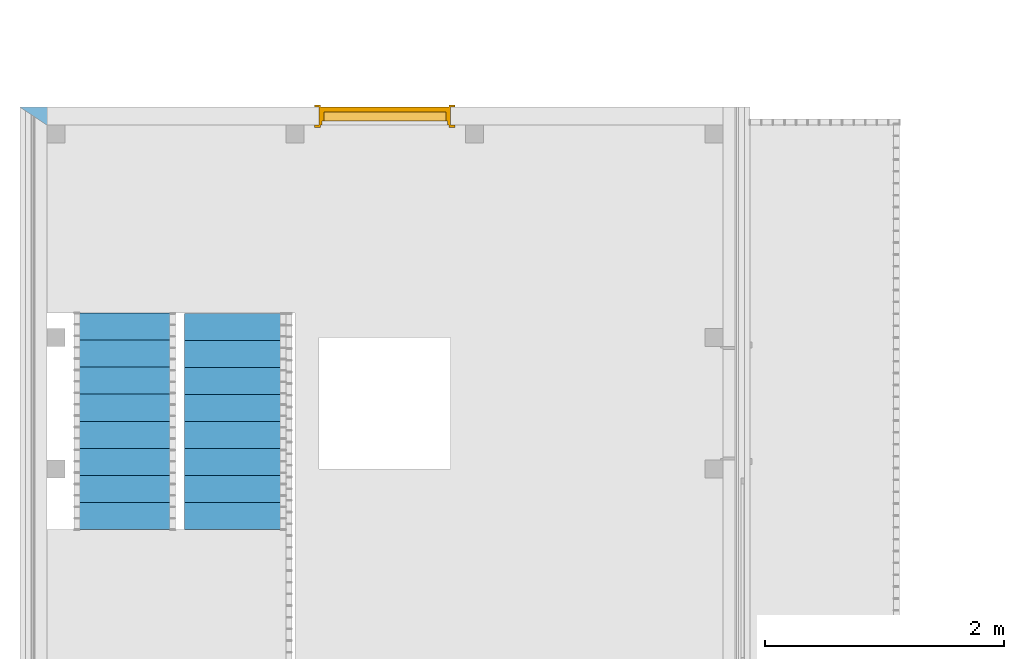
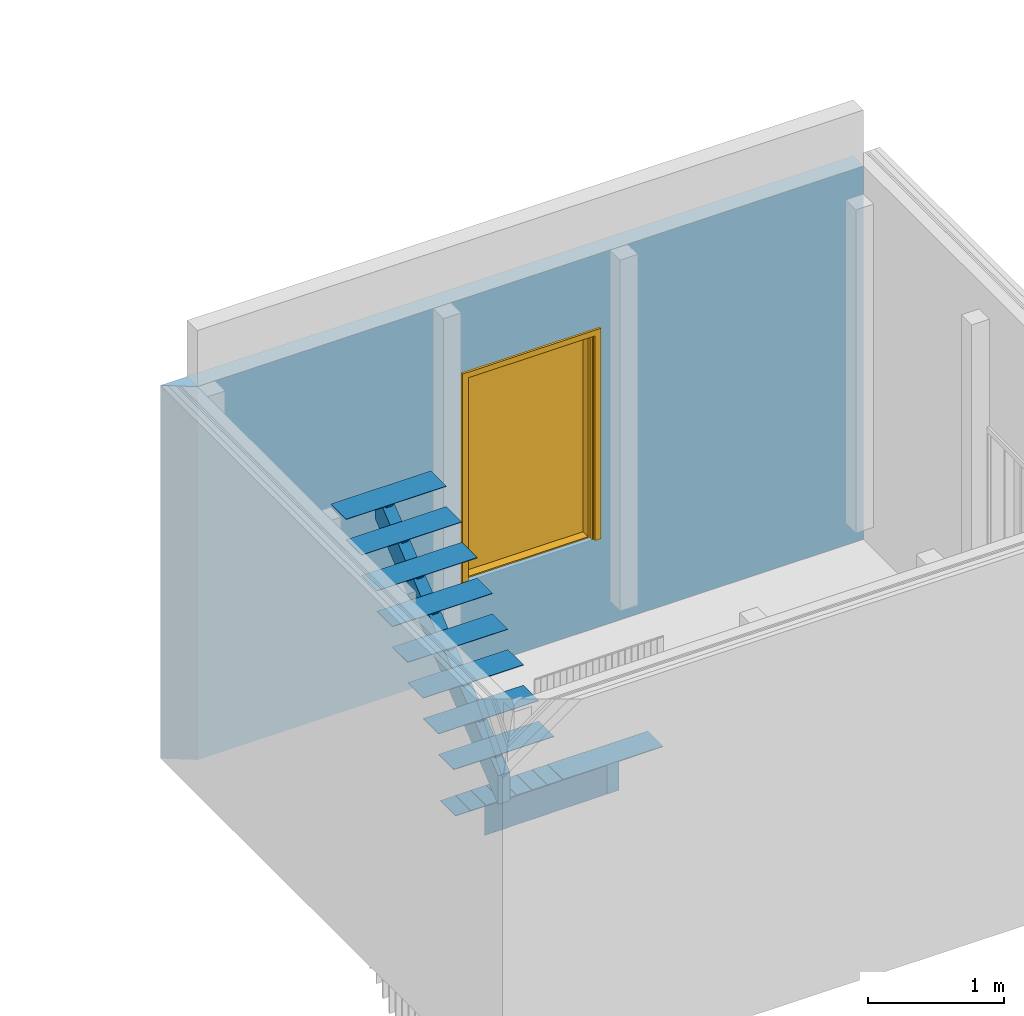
# One storey, part 51 of 100: 2 members, 1 door, 1 opening, 2 elements without a shape of their own, plus 1 element that does not belong to this part.
"""IFC2X3 building model written with IfcOpenShell, lengths in millimetres."""

from ifc_helpers import new_model, entity, si_unit, converted_unit, derived_unit, money_unit, direction, frame, origin_with_axes, origin_2d_with_axis, place, context, subcontext, project, spatial, polyline, rectangle, outline, extrude, faceted_brep, material, layer, layer_set, layer_usage, type_object, element, fill, aggregate, save


model = new_model("IFC2X3")

# Units and contexts
model_context = context("Model", 3, precision=0.01, world=origin_with_axes(), true_north=direction((0.0, 1.0)))
body_context = subcontext(model_context, "Body", "Model", "MODEL_VIEW")
ifc_project = project(units=[si_unit("LENGTHUNIT", "METRE", prefix="MILLI"), si_unit("AREAUNIT", "SQUARE_METRE"), si_unit("VOLUMEUNIT", "CUBIC_METRE"), converted_unit("PLANEANGLEUNIT", "DEGREE", entity("IfcPlaneAngleMeasure", 0.0174532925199), si_unit("PLANEANGLEUNIT", "RADIAN"), dimensions=[0, 0, 0, 0, 0, 0, 0]), si_unit("SOLIDANGLEUNIT", "STERADIAN"), money_unit("EUR"), converted_unit("TIMEUNIT", "Year", entity("IfcTimeMeasure", 31556926.0), si_unit("TIMEUNIT", "SECOND"), dimensions=[0, 0, 1, 0, 0, 0, 0]), si_unit("MASSUNIT", "GRAM", prefix="KILO"), si_unit("THERMODYNAMICTEMPERATUREUNIT", "DEGREE_CELSIUS"), si_unit("LUMINOUSINTENSITYUNIT", "LUMEN"), si_unit("ENERGYUNIT", "JOULE", prefix="MEGA"), derived_unit("THERMALCONDUCTANCEUNIT", [(si_unit("POWERUNIT", "WATT"), 1), (si_unit("LENGTHUNIT", "METRE"), -1), (si_unit("THERMODYNAMICTEMPERATUREUNIT", "KELVIN"), -1)]), derived_unit("SPECIFICHEATCAPACITYUNIT", [(si_unit("ENERGYUNIT", "JOULE"), 1), (si_unit("MASSUNIT", "GRAM", prefix="KILO"), -1), (si_unit("THERMODYNAMICTEMPERATUREUNIT", "KELVIN"), -1)]), derived_unit("MASSDENSITYUNIT", [(si_unit("MASSUNIT", "GRAM", prefix="KILO"), 1), (si_unit("VOLUMEUNIT", "CUBIC_METRE"), -1)])], contexts=[model_context])

# Site, building, storey
site_placement = place(None, origin_with_axes())
site = spatial("IfcSite", under=ifc_project, at=site_placement, Name="Politse- ja Piirivalveameti ning Päästeameti ühishoone", CompositionType="ELEMENT")
building_placement = place(site_placement, origin_with_axes())
building = spatial("IfcBuilding", under=site, at=building_placement, Name="Politse- ja Piirivalveameti ning Päästeameti ühishoone", CompositionType="ELEMENT")
storey_placement = place(building_placement, frame((0.0, 0.0, 3800.0), z_axis=(0.0, 0.0, 1.0), x_axis=(1.0, 0.0, 0.0)))
storey = spatial("IfcBuildingStorey", under=building, at=storey_placement, Name="Teine korrus", CompositionType="ELEMENT", Elevation=3800.0)

# Stair, member
stair_1_placement = place(storey_placement, frame((-13031.6987719, 2194.33466047, -499.999948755), z_axis=(0.0, 0.0, 1.0), x_axis=(0.0, -1.0, 0.0)))
stair_1 = element("IfcStair", 1, at=stair_1_placement, inside=storey, Name="TREPP 2", ShapeType="NOTDEFINED")
ifc_material_1 = material(Name="ET-06_Teras - Konstruktsioon")
member_type = type_object("IfcMemberType", Name="IfcMember", PredefinedType="USERDEFINED")
member_1_placement = place(stair_1_placement, origin_with_axes())
member_1 = element("IfcMember", 2, at=member_1_placement, type_object=member_type, material=ifc_material_1, Name="TT KONSTRUKTSIOON - 002", ObjectType="Stair Structure", context=body_context, shape_type="Brep", body=[
    faceted_brep([(-806.322199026, 375.0, -257.677132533), (999.104984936, 375.0, 1208.98953352), (999.104984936, 375.0, 1466.66666667), (-806.322199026, 375.0, 0.0), (-806.322199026, 475.0, -257.677132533), (999.104984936, 475.0, 1208.98953352), (999.104984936, 475.0, 1466.66666667), (-806.322199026, 475.0, 0.0)], [[[0, 1, 2, 3]], [[4, 5, 1, 0]], [[5, 6, 2, 1]], [[3, 2, 6, 7]], [[0, 3, 7, 4]], [[7, 6, 5, 4]]]),
    faceted_brep([(-592.953535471, 400.0, 173.333333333), (-580.643804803, 400.0, 183.333333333), (-780.643801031, 400.0, 183.333333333), (-701.130257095, 400.0, 85.4543012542), (-693.368606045, 400.0, 91.7595984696), (-759.636289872, 400.0, 173.333333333), (-580.643804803, 450.0, 183.333333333), (-592.953535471, 450.0, 173.333333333), (-780.643801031, 450.0, 183.333333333), (-701.130257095, 450.0, 85.4543012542), (-693.368606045, 450.0, 91.7595984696), (-759.636289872, 450.0, 173.333333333)], [[[0, 1, 2, 3, 4, 5]], [[6, 1, 0, 7]], [[1, 6, 8, 2]], [[9, 3, 2, 8]], [[10, 4, 3, 9]], [[4, 10, 11, 5]], [[7, 0, 5, 11]], [[6, 7, 11, 10, 9, 8]]]),
    faceted_brep([(-367.275139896, 400.0, 356.666666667), (-354.965409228, 400.0, 366.666666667), (-554.965403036, 400.0, 366.666666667), (-475.451860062, 400.0, 268.787635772), (-467.690209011, 400.0, 275.092932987), (-533.957891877, 400.0, 356.666666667), (-354.965409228, 450.0, 366.666666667), (-367.275139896, 450.0, 356.666666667), (-554.965403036, 450.0, 366.666666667), (-475.451860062, 450.0, 268.787635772), (-467.690209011, 450.0, 275.092932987), (-533.957891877, 450.0, 356.666666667)], [[[0, 1, 2, 3, 4, 5]], [[6, 1, 0, 7]], [[1, 6, 8, 2]], [[9, 3, 2, 8]], [[10, 4, 3, 9]], [[4, 10, 11, 5]], [[7, 0, 5, 11]], [[6, 7, 11, 10, 9, 8]]]),
    faceted_brep([(-141.596744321, 400.0, 540.0), (-129.287013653, 400.0, 550.0), (-329.287005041, 400.0, 550.0), (-249.773463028, 400.0, 452.12097029), (-242.011811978, 400.0, 458.426267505), (-308.279493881, 400.0, 540.0), (-129.287013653, 450.0, 550.0), (-141.596744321, 450.0, 540.0), (-329.287005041, 450.0, 550.0), (-249.773463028, 450.0, 452.12097029), (-242.011811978, 450.0, 458.426267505), (-308.279493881, 450.0, 540.0)], [[[0, 1, 2, 3, 4, 5]], [[6, 1, 0, 7]], [[1, 6, 8, 2]], [[9, 3, 2, 8]], [[10, 4, 3, 9]], [[4, 10, 11, 5]], [[7, 0, 5, 11]], [[6, 7, 11, 10, 9, 8]]]),
    faceted_brep([(84.0816512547, 400.0, 723.333333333), (96.3913819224, 400.0, 733.333333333), (-103.608607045, 400.0, 733.333333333), (-24.0950659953, 400.0, 635.454304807), (-16.3334149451, 400.0, 641.759602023), (-82.6010958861, 400.0, 723.333333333), (96.3913819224, 450.0, 733.333333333), (84.0816512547, 450.0, 723.333333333), (-103.608607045, 450.0, 733.333333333), (-24.0950659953, 450.0, 635.454304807), (-16.3334149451, 450.0, 641.759602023), (-82.6010958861, 450.0, 723.333333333)], [[[0, 1, 2, 3, 4, 5]], [[6, 1, 0, 7]], [[1, 6, 8, 2]], [[9, 3, 2, 8]], [[10, 4, 3, 9]], [[4, 10, 11, 5]], [[7, 0, 5, 11]], [[6, 7, 11, 10, 9, 8]]]),
    faceted_brep([(309.76004683, 400.0, 906.666666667), (322.069777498, 400.0, 916.666666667), (122.06979095, 400.0, 916.666666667), (201.583331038, 400.0, 818.787639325), (209.344982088, 400.0, 825.09293654), (143.077302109, 400.0, 906.666666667), (322.069777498, 450.0, 916.666666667), (309.76004683, 450.0, 906.666666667), (122.06979095, 450.0, 916.666666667), (201.583331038, 450.0, 818.787639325), (209.344982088, 450.0, 825.09293654), (143.077302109, 450.0, 906.666666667)], [[[0, 1, 2, 3, 4, 5]], [[6, 1, 0, 7]], [[1, 6, 8, 2]], [[9, 3, 2, 8]], [[10, 4, 3, 9]], [[4, 10, 11, 5]], [[7, 0, 5, 11]], [[6, 7, 11, 10, 9, 8]]]),
    faceted_brep([(535.438442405, 400.0, 1090.0), (547.748173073, 400.0, 1100.0), (347.748188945, 400.0, 1100.0), (427.261728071, 400.0, 1002.12097384), (435.023379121, 400.0, 1008.42627106), (368.755700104, 400.0, 1090.0), (547.748173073, 450.0, 1100.0), (535.438442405, 450.0, 1090.0), (347.748188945, 450.0, 1100.0), (427.261728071, 450.0, 1002.12097384), (435.023379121, 450.0, 1008.42627106), (368.755700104, 450.0, 1090.0)], [[[0, 1, 2, 3, 4, 5]], [[6, 1, 0, 7]], [[1, 6, 8, 2]], [[9, 3, 2, 8]], [[10, 4, 3, 9]], [[4, 10, 11, 5]], [[7, 0, 5, 11]], [[6, 7, 11, 10, 9, 8]]]),
    faceted_brep([(761.116837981, 400.0, 1273.33333333), (773.426568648, 400.0, 1283.33333333), (573.42658694, 400.0, 1283.33333333), (652.940125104, 400.0, 1185.45430836), (660.701776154, 400.0, 1191.75960558), (594.4340981, 400.0, 1273.33333333), (773.426568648, 450.0, 1283.33333333), (761.116837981, 450.0, 1273.33333333), (573.42658694, 450.0, 1283.33333333), (652.940125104, 450.0, 1185.45430836), (660.701776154, 450.0, 1191.75960558), (594.4340981, 450.0, 1273.33333333)], [[[0, 1, 2, 3, 4, 5]], [[6, 1, 0, 7]], [[1, 6, 8, 2]], [[9, 3, 2, 8]], [[10, 4, 3, 9]], [[4, 10, 11, 5]], [[7, 0, 5, 11]], [[6, 7, 11, 10, 9, 8]]]),
    faceted_brep([(986.795233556, 400.0, 1456.66666667), (999.104976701, 400.0, 1466.6666768), (799.104984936, 400.0, 1466.66666667), (878.618522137, 400.0, 1368.78764288), (886.380173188, 400.0, 1375.09294009), (820.112496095, 400.0, 1456.66666667), (999.104976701, 450.0, 1466.6666768), (986.795233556, 450.0, 1456.66666667), (799.104984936, 450.0, 1466.66666667), (878.618522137, 450.0, 1368.78764288), (886.380173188, 450.0, 1375.09294009), (820.112496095, 450.0, 1456.66666667)], [[[0, 1, 2, 3, 4, 5]], [[6, 1, 0, 7]], [[1, 6, 8, 2]], [[9, 3, 2, 8]], [[10, 4, 3, 9]], [[4, 10, 11, 5]], [[7, 0, 5, 11]], [[6, 7, 11, 10, 9, 8]]]),
    faceted_brep([(-806.322199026, 849.737149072, 183.333333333), (-806.322199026, 0.0, 183.333333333), (-806.322199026, 0.0, 188.333333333), (-806.322199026, 849.737149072, 188.333333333), (-580.643801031, 849.737149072, 183.333333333), (-580.643801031, 0.0, 183.333333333), (-580.643801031, 0.0, 188.333333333), (-580.643801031, 849.737149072, 188.333333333)], [[[0, 1, 2, 3]], [[0, 4, 5, 1]], [[1, 5, 6, 2]], [[3, 2, 6, 7]], [[4, 0, 3, 7]], [[5, 4, 7, 6]]]),
    faceted_brep([(-580.643801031, 849.737149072, 366.666666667), (-580.643801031, 0.0, 366.666666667), (-580.643801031, 0.0, 371.666666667), (-580.643801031, 849.737149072, 371.666666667), (-354.965403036, 849.737149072, 366.666666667), (-354.965403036, 0.0, 366.666666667), (-354.965403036, 0.0, 371.666666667), (-354.965403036, 849.737149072, 371.666666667)], [[[0, 1, 2, 3]], [[0, 4, 5, 1]], [[1, 5, 6, 2]], [[3, 2, 6, 7]], [[4, 0, 3, 7]], [[5, 4, 7, 6]]]),
    faceted_brep([(-354.965403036, 849.737149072, 550.0), (-354.965403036, 0.0, 550.0), (-354.965403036, 0.0, 555.0), (-354.965403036, 849.737149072, 555.0), (-129.287005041, 849.737149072, 550.0), (-129.287005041, 0.0, 550.0), (-129.287005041, 0.0, 555.0), (-129.287005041, 849.737149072, 555.0)], [[[0, 1, 2, 3]], [[0, 4, 5, 1]], [[1, 5, 6, 2]], [[3, 2, 6, 7]], [[4, 0, 3, 7]], [[5, 4, 7, 6]]]),
    faceted_brep([(-129.287005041, 849.737149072, 733.333333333), (-129.287005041, 0.0, 733.333333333), (-129.287005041, 0.0, 738.333333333), (-129.287005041, 849.737149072, 738.333333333), (96.3913929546, 849.737149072, 733.333333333), (96.3913929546, 0.0, 733.333333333), (96.3913929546, 0.0, 738.333333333), (96.3913929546, 849.737149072, 738.333333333)], [[[0, 1, 2, 3]], [[0, 4, 5, 1]], [[1, 5, 6, 2]], [[3, 2, 6, 7]], [[4, 0, 3, 7]], [[5, 4, 7, 6]]]),
    faceted_brep([(96.3913929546, 849.737149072, 916.666666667), (96.3913929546, 0.0, 916.666666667), (96.3913929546, 0.0, 921.666666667), (96.3913929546, 849.737149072, 921.666666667), (322.06979095, 849.737149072, 916.666666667), (322.06979095, 0.0, 916.666666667), (322.06979095, 0.0, 921.666666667), (322.06979095, 849.737149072, 921.666666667)], [[[0, 1, 2, 3]], [[0, 4, 5, 1]], [[1, 5, 6, 2]], [[3, 2, 6, 7]], [[4, 0, 3, 7]], [[5, 4, 7, 6]]]),
    faceted_brep([(322.06979095, 849.737149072, 1100.0), (322.06979095, 0.0, 1100.0), (322.06979095, 0.0, 1105.0), (322.06979095, 849.737149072, 1105.0), (547.748188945, 849.737149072, 1100.0), (547.748188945, 0.0, 1100.0), (547.748188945, 0.0, 1105.0), (547.748188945, 849.737149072, 1105.0)], [[[0, 1, 2, 3]], [[0, 4, 5, 1]], [[1, 5, 6, 2]], [[3, 2, 6, 7]], [[4, 0, 3, 7]], [[5, 4, 7, 6]]]),
    faceted_brep([(547.748188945, 849.737149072, 1283.33333333), (547.748188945, 0.0, 1283.33333333), (547.748188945, 0.0, 1288.33333333), (547.748188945, 849.737149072, 1288.33333333), (773.42658694, 849.737149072, 1283.33333333), (773.42658694, 0.0, 1283.33333333), (773.42658694, 0.0, 1288.33333333), (773.42658694, 849.737149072, 1288.33333333)], [[[0, 1, 2, 3]], [[0, 4, 5, 1]], [[1, 5, 6, 2]], [[3, 2, 6, 7]], [[4, 0, 3, 7]], [[5, 4, 7, 6]]]),
    faceted_brep([(773.42658694, 849.737149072, 1466.66666667), (773.42658694, 0.0, 1466.66666667), (773.42658694, 0.0, 1471.66666667), (773.42658694, 849.737149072, 1471.66666667), (999.104984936, 849.737149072, 1466.66666667), (999.104984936, 0.0, 1466.66666667), (999.104984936, 0.0, 1471.66666667), (999.104984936, 849.737149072, 1471.66666667)], [[[0, 1, 2, 3]], [[0, 4, 5, 1]], [[1, 5, 6, 2]], [[3, 2, 6, 7]], [[4, 0, 3, 7]], [[5, 4, 7, 6]]]),
])
aggregate(stair_1, [member_1])

stair_2_placement = place(storey_placement, frame((-13956.6987719, 2005.82219903, 1197.0), z_axis=(0.0, 0.0, 1.0), x_axis=(0.0, 1.0, 0.0)))
stair_2 = element("IfcStair", 3, at=stair_2_placement, inside=storey, Name="TREPP 2", ShapeType="NOTDEFINED")
member_2_placement = place(stair_2_placement, origin_with_axes())
member_2 = element("IfcMember", 4, at=member_2_placement, type_object=member_type, material=ifc_material_1, Name="TT KONSTRUKTSIOON - 002", ObjectType="Stair Structure", context=body_context, shape_type="Brep", body=[
    faceted_brep([(-810.592523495, -375.0, -257.435566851), (-810.592523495, -375.0, 0.0), (999.104984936, -375.0, 1466.66666667), (999.104984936, -375.0, 1209.23109793), (-810.592523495, -475.0, -257.435566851), (-810.592523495, -475.0, 0.0), (999.104984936, -475.0, 1466.66666667), (999.104984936, -475.0, 1209.23109793)], [[[0, 1, 2, 3]], [[0, 4, 5, 1]], [[1, 5, 6, 2]], [[7, 3, 2, 6]], [[4, 0, 3, 7]], [[5, 4, 7, 6]]]),
    faceted_brep([(-596.719192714, -400.0, 173.333333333), (-763.404071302, -400.0, 173.333333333), (-697.324081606, -400.0, 91.7982473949), (-705.093015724, -400.0, 85.5019260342), (-784.380334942, -400.0, 183.333333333), (-584.380346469, -400.0, 183.333333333), (-596.719192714, -450.0, 173.333333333), (-763.404071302, -450.0, 173.333333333), (-697.324081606, -450.0, 91.7982473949), (-705.093015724, -450.0, 85.5019260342), (-784.380334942, -450.0, 183.333333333), (-584.380346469, -450.0, 183.333333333)], [[[0, 1, 2, 3, 4, 5]], [[6, 7, 1, 0]], [[2, 1, 7, 8]], [[8, 9, 3, 2]], [[9, 10, 4, 3]], [[5, 4, 10, 11]], [[11, 6, 0, 5]], [[11, 10, 9, 8, 7, 6]]]),
    faceted_brep([(-370.507011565, -400.0, 356.666666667), (-537.191882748, -400.0, 356.666666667), (-471.111895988, -400.0, 275.131584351), (-478.880830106, -400.0, 268.83526299), (-558.168146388, -400.0, 366.666666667), (-358.168165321, -400.0, 366.666666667), (-370.507011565, -450.0, 356.666666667), (-537.191882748, -450.0, 356.666666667), (-471.111895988, -450.0, 275.131584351), (-478.880830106, -450.0, 268.83526299), (-558.168146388, -450.0, 366.666666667), (-358.168165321, -450.0, 366.666666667)], [[[0, 1, 2, 3, 4, 5]], [[6, 7, 1, 0]], [[2, 1, 7, 8]], [[8, 9, 3, 2]], [[9, 10, 4, 3]], [[5, 4, 10, 11]], [[11, 6, 0, 5]], [[11, 10, 9, 8, 7, 6]]]),
    faceted_brep([(-144.294830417, -400.0, 540.0), (-310.979694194, -400.0, 540.0), (-244.89971037, -400.0, 458.464921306), (-252.668644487, -400.0, 452.168599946), (-331.955957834, -400.0, 550.0), (-131.955984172, -400.0, 550.0), (-144.294830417, -450.0, 540.0), (-310.979694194, -450.0, 540.0), (-244.89971037, -450.0, 458.464921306), (-252.668644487, -450.0, 452.168599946), (-331.955957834, -450.0, 550.0), (-131.955984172, -450.0, 550.0)], [[[0, 1, 2, 3, 4, 5]], [[6, 7, 1, 0]], [[2, 1, 7, 8]], [[8, 9, 3, 2]], [[9, 10, 4, 3]], [[5, 4, 10, 11]], [[11, 6, 0, 5]], [[11, 10, 9, 8, 7, 6]]]),
    faceted_brep([(81.9173507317, -400.0, 723.333333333), (-84.7675056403, -400.0, 723.333333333), (-18.6875247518, -400.0, 641.798258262), (-26.4564588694, -400.0, 635.501936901), (-105.74376928, -400.0, 733.333333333), (94.2561969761, -400.0, 733.333333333), (81.9173507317, -450.0, 723.333333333), (-84.7675056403, -450.0, 723.333333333), (-18.6875247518, -450.0, 641.798258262), (-26.4564588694, -450.0, 635.501936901), (-105.74376928, -450.0, 733.333333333), (94.2561969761, -450.0, 733.333333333)], [[[0, 1, 2, 3, 4, 5]], [[6, 7, 1, 0]], [[2, 1, 7, 8]], [[8, 9, 3, 2]], [[9, 10, 4, 3]], [[5, 4, 10, 11]], [[11, 6, 0, 5]], [[11, 10, 9, 8, 7, 6]]]),
    faceted_brep([(308.12953188, -400.0, 906.666666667), (141.444682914, -400.0, 906.666666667), (207.524660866, -400.0, 825.131595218), (199.755726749, -400.0, 818.835273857), (120.468419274, -400.0, 916.666666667), (320.468378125, -400.0, 916.666666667), (308.12953188, -450.0, 906.666666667), (141.444682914, -450.0, 906.666666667), (207.524660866, -450.0, 825.131595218), (199.755726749, -450.0, 818.835273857), (120.468419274, -450.0, 916.666666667), (320.468378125, -450.0, 916.666666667)], [[[0, 1, 2, 3, 4, 5]], [[6, 7, 1, 0]], [[2, 1, 7, 8]], [[8, 9, 3, 2]], [[9, 10, 4, 3]], [[5, 4, 10, 11]], [[11, 6, 0, 5]], [[11, 10, 9, 8, 7, 6]]]),
    faceted_brep([(534.341713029, -400.0, 1090.0), (367.656871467, -400.0, 1090.0), (433.736846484, -400.0, 1008.46493217), (425.967912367, -400.0, 1002.16861081), (346.680607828, -400.0, 1100.0), (546.680559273, -400.0, 1100.0), (534.341713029, -450.0, 1090.0), (367.656871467, -450.0, 1090.0), (433.736846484, -450.0, 1008.46493217), (425.967912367, -450.0, 1002.16861081), (346.680607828, -450.0, 1100.0), (546.680559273, -450.0, 1100.0)], [[[0, 1, 2, 3, 4, 5]], [[6, 7, 1, 0]], [[2, 1, 7, 8]], [[8, 9, 3, 2]], [[9, 10, 4, 3]], [[5, 4, 10, 11]], [[11, 6, 0, 5]], [[11, 10, 9, 8, 7, 6]]]),
    faceted_brep([(760.553894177, -400.0, 1273.33333333), (593.869060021, -400.0, 1273.33333333), (659.949032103, -400.0, 1191.79826913), (652.180097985, -400.0, 1185.50194777), (572.892796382, -400.0, 1283.33333333), (772.892740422, -400.0, 1283.33333333), (760.553894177, -450.0, 1273.33333333), (593.869060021, -450.0, 1273.33333333), (659.949032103, -450.0, 1191.79826913), (652.180097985, -450.0, 1185.50194777), (572.892796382, -450.0, 1283.33333333), (772.892740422, -450.0, 1283.33333333)], [[[0, 1, 2, 3, 4, 5]], [[6, 7, 1, 0]], [[2, 1, 7, 8]], [[8, 9, 3, 2]], [[9, 10, 4, 3]], [[5, 4, 10, 11]], [[11, 6, 0, 5]], [[11, 10, 9, 8, 7, 6]]]),
    faceted_brep([(986.766075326, -400.0, 1456.66666667), (820.081248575, -400.0, 1456.66666667), (886.161217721, -400.0, 1375.13160609), (878.392283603, -400.0, 1368.83528472), (799.104984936, -400.0, 1466.66666667), (999.104959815, -400.0, 1466.66669766), (986.766075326, -450.0, 1456.66666667), (820.081248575, -450.0, 1456.66666667), (886.161217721, -450.0, 1375.13160609), (878.392283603, -450.0, 1368.83528472), (799.104984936, -450.0, 1466.66666667), (999.104959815, -450.0, 1466.66669766)], [[[0, 1, 2, 3, 4, 5]], [[6, 7, 1, 0]], [[2, 1, 7, 8]], [[8, 9, 3, 2]], [[9, 10, 4, 3]], [[5, 4, 10, 11]], [[11, 6, 0, 5]], [[11, 10, 9, 8, 7, 6]]]),
    faceted_brep([(-810.592523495, -849.859183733, 183.333333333), (-810.592523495, -849.859183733, 188.333333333), (-810.592523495, 0.0, 188.333333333), (-810.592523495, 0.0, 183.333333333), (-584.380334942, -849.859183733, 183.333333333), (-584.380334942, -849.859183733, 188.333333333), (-584.380334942, 0.0, 188.333333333), (-584.380334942, 0.0, 183.333333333)], [[[0, 1, 2, 3]], [[4, 5, 1, 0]], [[1, 5, 6, 2]], [[3, 2, 6, 7]], [[0, 3, 7, 4]], [[7, 6, 5, 4]]]),
    faceted_brep([(-584.380334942, -849.859183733, 366.666666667), (-584.380334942, -849.859183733, 371.666666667), (-584.380334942, 0.0, 371.666666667), (-584.380334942, 0.0, 366.666666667), (-358.168146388, -849.859183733, 366.666666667), (-358.168146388, -849.859183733, 371.666666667), (-358.168146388, 0.0, 371.666666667), (-358.168146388, 0.0, 366.666666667)], [[[0, 1, 2, 3]], [[4, 5, 1, 0]], [[1, 5, 6, 2]], [[3, 2, 6, 7]], [[0, 3, 7, 4]], [[7, 6, 5, 4]]]),
    faceted_brep([(-358.168146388, -849.859183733, 550.0), (-358.168146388, -849.859183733, 555.0), (-358.168146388, 0.0, 555.0), (-358.168146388, 0.0, 550.0), (-131.955957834, -849.859183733, 550.0), (-131.955957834, -849.859183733, 555.0), (-131.955957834, 0.0, 555.0), (-131.955957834, 0.0, 550.0)], [[[0, 1, 2, 3]], [[4, 5, 1, 0]], [[1, 5, 6, 2]], [[3, 2, 6, 7]], [[0, 3, 7, 4]], [[7, 6, 5, 4]]]),
    faceted_brep([(-131.955957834, -849.859183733, 733.333333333), (-131.955957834, -849.859183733, 738.333333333), (-131.955957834, 0.0, 738.333333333), (-131.955957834, 0.0, 733.333333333), (94.2562307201, -849.859183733, 733.333333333), (94.2562307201, -849.859183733, 738.333333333), (94.2562307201, 0.0, 738.333333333), (94.2562307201, 0.0, 733.333333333)], [[[0, 1, 2, 3]], [[4, 5, 1, 0]], [[1, 5, 6, 2]], [[3, 2, 6, 7]], [[0, 3, 7, 4]], [[7, 6, 5, 4]]]),
    faceted_brep([(94.2562307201, -849.859183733, 916.666666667), (94.2562307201, -849.859183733, 921.666666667), (94.2562307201, 0.0, 921.666666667), (94.2562307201, 0.0, 916.666666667), (320.468419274, -849.859183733, 916.666666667), (320.468419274, -849.859183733, 921.666666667), (320.468419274, 0.0, 921.666666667), (320.468419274, 0.0, 916.666666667)], [[[0, 1, 2, 3]], [[4, 5, 1, 0]], [[1, 5, 6, 2]], [[3, 2, 6, 7]], [[0, 3, 7, 4]], [[7, 6, 5, 4]]]),
    faceted_brep([(320.468419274, -849.859183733, 1100.0), (320.468419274, -849.859183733, 1105.0), (320.468419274, 0.0, 1105.0), (320.468419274, 0.0, 1100.0), (546.680607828, -849.859183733, 1100.0), (546.680607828, -849.859183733, 1105.0), (546.680607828, 0.0, 1105.0), (546.680607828, 0.0, 1100.0)], [[[0, 1, 2, 3]], [[4, 5, 1, 0]], [[1, 5, 6, 2]], [[3, 2, 6, 7]], [[0, 3, 7, 4]], [[7, 6, 5, 4]]]),
    faceted_brep([(546.680607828, -849.859183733, 1283.33333333), (546.680607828, -849.859183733, 1288.33333333), (546.680607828, 0.0, 1288.33333333), (546.680607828, 0.0, 1283.33333333), (772.892796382, -849.859183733, 1283.33333333), (772.892796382, -849.859183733, 1288.33333333), (772.892796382, 0.0, 1288.33333333), (772.892796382, 0.0, 1283.33333333)], [[[0, 1, 2, 3]], [[4, 5, 1, 0]], [[1, 5, 6, 2]], [[3, 2, 6, 7]], [[0, 3, 7, 4]], [[7, 6, 5, 4]]]),
    faceted_brep([(772.892796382, -849.859183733, 1466.66666667), (772.892796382, -849.859183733, 1471.66666667), (772.892796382, 0.0, 1471.66666667), (772.892796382, 0.0, 1466.66666667), (999.104984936, -849.859183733, 1466.66666667), (999.104984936, -849.859183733, 1471.66666667), (999.104984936, 0.0, 1471.66666667), (999.104984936, 0.0, 1466.66666667)], [[[0, 1, 2, 3]], [[4, 5, 1, 0]], [[1, 5, 6, 2]], [[3, 2, 6, 7]], [[0, 3, 7, 4]], [[7, 6, 5, 4]]]),
])
aggregate(stair_2, [member_2])

# Wall, opening, door
ifc_material_2 = material(Name="Betoon")
ifc_layer = layer(ifc_material_2, 150.0, ventilated="UNKNOWN")
ifc_layer_set = layer_set([ifc_layer], Name="VS-21_Välissein jarjutustorn 150mm")
ifc_layer_usage = layer_usage(ifc_layer_set, "AXIS2", "NEGATIVE", 150.0)
wall_type = type_object("IfcWallType", Name="VS-21_Välissein jarjutustorn 150mm 150", PredefinedType="NOTDEFINED")
wall_placement = place(storey_placement, frame((-14182.0, 4575.4616888, -499.999987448), z_axis=(0.0, 0.0, 1.0), x_axis=(1.0, 0.0, 0.0)))
wall = element("IfcWallStandardCase", 5, at=wall_placement, inside=storey, type_object=wall_type, material=ifc_layer_usage, Name="VS-21", context=body_context, shape_type="SweptSolid", body=[
    extrude(outline(polyline([(0.0, 0.0), (5650.0, 0.0), (5650.0, 150.0), (-225.0, 150.0), (0.0, 0.0)])), origin_with_axes(), (0.0, 0.0, 1.0), 3346.99998745),
])
opening_placement = place(wall_placement, frame((2824.96730436, 0.0, 799.999987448), z_axis=(0.0, 0.0, 1.0), x_axis=(1.0, 0.0, 0.0)))
opening = element("IfcOpeningElement", 6, at=opening_placement, cuts=wall, Name="LU-21", context=body_context, shape_type="SweptSolid", body=[
    extrude(rectangle(XDim=1100.0, YDim=1850.0, at=origin_2d_with_axis()), frame((0.0, -150.0, 925.0), z_axis=(0.0, -1.0, 0.0), x_axis=(-1.0, 0.0, 0.0)), (0.0, 0.0, -1.0), 450.0),
    extrude(rectangle(XDim=1174.0, YDim=1887.0, at=origin_2d_with_axis()), frame((0.0, 0.0, 943.5), z_axis=(0.0, -1.0, 0.0), x_axis=(-1.0, 0.0, 0.0)), (0.0, 0.0, 1.0), 150.0),
    extrude(rectangle(XDim=1174.0, YDim=1887.0, at=origin_2d_with_axis()), frame((0.0, 150.0, 943.5), z_axis=(0.0, 1.0, 0.0), x_axis=(-1.0, 0.0, 0.0)), (0.0, 0.0, 1.0), 150.0),
])
door_style = type_object("IfcDoorStyle", Name="Door 23", ConstructionType="NOTDEFINED", OperationType="SINGLE_SWING_LEFT", ParameterTakesPrecedence=False, Sizeable=False)
door_placement = place(opening_placement, frame((-550.0, 0.0, 0.0), z_axis=(0.0, 0.0, 1.0), x_axis=(1.0, 0.0, 0.0)))
door = element("IfcDoor", 7, at=door_placement, inside=storey, type_object=door_style, Name="LU-21", ObjectType="DOOR", OverallHeight=1850.0, OverallWidth=1100.0, context=body_context, shape_type="Brep", body=[
    faceted_brep([(28.0, 110.0, 0.0), (40.0, 110.0, 0.0), (40.0, 110.0, 12.0), (28.0, 110.0, 12.0), (1072.0, 110.0, 0.0), (1060.0, 110.0, 0.0), (1060.0, 35.0, 0.0), (40.0, 35.0, 0.0), (40.0, 35.0, 12.0), (1060.0, 35.0, 12.0), (1060.0, 110.0, 12.0), (1072.0, 110.0, 12.0)], [[[0, 1, 2, 3]], [[0, 4, 5, 6, 7, 1]], [[1, 7, 8, 2]], [[3, 2, 8, 9, 10, 11]], [[4, 0, 3, 11]], [[5, 4, 11, 10]], [[6, 5, 10, 9]], [[7, 6, 9, 8]]]),
    faceted_brep([(1100.0, 35.0, 0.0), (1100.0, 0.0, 0.0), (1075.0, 0.0, 0.0), (1075.0, 35.0, 0.0), (1100.0, 35.0, 1850.0), (1100.0, 0.0, 1850.0), (1075.0, 0.0, 1825.0), (1075.0, 35.0, 1825.0)], [[[0, 1, 2, 3]], [[4, 5, 1, 0]], [[1, 5, 6, 2]], [[3, 2, 6, 7]], [[0, 3, 7, 4]], [[7, 6, 5, 4]]]),
    faceted_brep([(0.0, 35.0, 1850.0), (0.0, 0.0, 1850.0), (25.0, 0.0, 1825.0), (25.0, 35.0, 1825.0), (0.0, 35.0, 0.0), (0.0, 0.0, 0.0), (25.0, 0.0, 0.0), (25.0, 35.0, 0.0)], [[[0, 1, 2, 3]], [[4, 5, 1, 0]], [[1, 5, 6, 2]], [[3, 2, 6, 7]], [[0, 3, 7, 4]], [[7, 6, 5, 4]]]),
    faceted_brep([(1075.0, 35.0, 1825.0), (1075.0, 0.0, 1825.0), (25.0, 0.0, 1825.0), (25.0, 35.0, 1825.0), (1100.0, 35.0, 1850.0), (1100.0, 0.0, 1850.0), (0.0, 0.0, 1850.0), (0.0, 35.0, 1850.0)], [[[0, 1, 2, 3]], [[4, 5, 1, 0]], [[1, 5, 6, 2]], [[3, 2, 6, 7]], [[0, 3, 7, 4]], [[7, 6, 5, 4]]]),
    faceted_brep([(1137.0, -19.0, 0.0), (1087.0, -19.0, 0.0), (1087.0, 0.0, 0.0), (1137.0, 0.0, 0.0), (1137.0, -19.0, 1887.0), (1087.0, -19.0, 1837.0), (1087.0, 0.0, 1837.0), (1137.0, 0.0, 1887.0)], [[[0, 1, 2, 3]], [[0, 4, 5, 1]], [[1, 5, 6, 2]], [[3, 2, 6, 7]], [[4, 0, 3, 7]], [[5, 4, 7, 6]]]),
    faceted_brep([(-37.0, -19.0, 1887.0), (13.0, -19.0, 1837.0), (13.0, 0.0, 1837.0), (-37.0, 0.0, 1887.0), (-37.0, -19.0, 0.0), (13.0, -19.0, 0.0), (13.0, 0.0, 0.0), (-37.0, 0.0, 0.0)], [[[0, 1, 2, 3]], [[0, 4, 5, 1]], [[1, 5, 6, 2]], [[3, 2, 6, 7]], [[4, 0, 3, 7]], [[5, 4, 7, 6]]]),
    faceted_brep([(1137.0, -19.0, 1887.0), (1087.0, -19.0, 1837.0), (1087.0, 0.0, 1837.0), (1137.0, 0.0, 1887.0), (-37.0, -19.0, 1887.0), (13.0, -19.0, 1837.0), (13.0, 0.0, 1837.0), (-37.0, 0.0, 1887.0)], [[[0, 1, 2, 3]], [[0, 4, 5, 1]], [[1, 5, 6, 2]], [[3, 2, 6, 7]], [[4, 0, 3, 7]], [[5, 4, 7, 6]]]),
    faceted_brep([(1137.0, 169.0, 0.0), (1137.0, 150.0, 0.0), (1087.0, 150.0, 0.0), (1087.0, 169.0, 0.0), (1137.0, 169.0, 1887.0), (1137.0, 150.0, 1887.0), (1087.0, 150.0, 1837.0), (1087.0, 169.0, 1837.0)], [[[0, 1, 2, 3]], [[4, 5, 1, 0]], [[1, 5, 6, 2]], [[3, 2, 6, 7]], [[0, 3, 7, 4]], [[7, 6, 5, 4]]]),
    faceted_brep([(-37.0, 169.0, 1887.0), (-37.0, 150.0, 1887.0), (13.0, 150.0, 1837.0), (13.0, 169.0, 1837.0), (-37.0, 169.0, 0.0), (-37.0, 150.0, 0.0), (13.0, 150.0, 0.0), (13.0, 169.0, 0.0)], [[[0, 1, 2, 3]], [[4, 5, 1, 0]], [[1, 5, 6, 2]], [[3, 2, 6, 7]], [[0, 3, 7, 4]], [[7, 6, 5, 4]]]),
    faceted_brep([(1137.0, 169.0, 1887.0), (1137.0, 150.0, 1887.0), (1087.0, 150.0, 1837.0), (1087.0, 169.0, 1837.0), (-37.0, 169.0, 1887.0), (-37.0, 150.0, 1887.0), (13.0, 150.0, 1837.0), (13.0, 169.0, 1837.0)], [[[0, 1, 2, 3]], [[4, 5, 1, 0]], [[1, 5, 6, 2]], [[3, 2, 6, 7]], [[0, 3, 7, 4]], [[7, 6, 5, 4]]]),
    faceted_brep([(1060.0, 110.0, 0.0), (1060.0, 35.0, 0.0), (1060.0, 35.0, 1810.0), (1060.0, 110.0, 1810.0), (1072.0, 110.0, 0.0), (1072.0, 150.0, 0.0), (1100.0, 150.0, 0.0), (1100.0, 35.0, 0.0), (1100.0, 35.0, 1810.0), (1072.0, 110.0, 1810.0), (1100.0, 150.0, 1810.0), (1072.0, 150.0, 1810.0)], [[[0, 1, 2, 3]], [[4, 5, 6, 7, 1, 0]], [[1, 7, 8, 2]], [[9, 3, 2, 8, 10, 11]], [[9, 4, 0, 3]], [[11, 5, 4, 9]], [[11, 10, 6, 5]], [[6, 10, 8, 7]]]),
    faceted_brep([(28.0, 110.0, 1810.0), (28.0, 150.0, 1810.0), (0.0, 150.0, 1810.0), (0.0, 35.0, 1810.0), (40.0, 35.0, 1810.0), (40.0, 110.0, 1810.0), (28.0, 110.0, 0.0), (28.0, 150.0, 0.0), (0.0, 150.0, 0.0), (0.0, 35.0, 0.0), (40.0, 35.0, 0.0), (40.0, 110.0, 0.0)], [[[0, 1, 2, 3, 4, 5]], [[0, 6, 7, 1]], [[7, 8, 2, 1]], [[2, 8, 9, 3]], [[3, 9, 10, 4]], [[5, 4, 10, 11]], [[5, 11, 6, 0]], [[6, 11, 10, 9, 8, 7]]]),
    faceted_brep([(1072.0, 150.0, 1822.0), (28.0, 150.0, 1822.0), (28.0, 150.0, 1810.0), (0.0, 150.0, 1810.0), (0.0, 150.0, 1850.0), (1100.0, 150.0, 1850.0), (1100.0, 150.0, 1810.0), (1072.0, 150.0, 1810.0), (1072.0, 110.0, 1822.0), (28.0, 110.0, 1822.0), (28.0, 110.0, 1810.0), (40.0, 110.0, 1810.0), (40.0, 35.0, 1810.0), (0.0, 35.0, 1810.0), (0.0, 35.0, 1850.0), (1100.0, 35.0, 1850.0), (1100.0, 35.0, 1810.0), (1072.0, 110.0, 1810.0), (1060.0, 35.0, 1810.0), (1060.0, 110.0, 1810.0)], [[[0, 1, 2, 3, 4, 5, 6, 7]], [[0, 8, 9, 1]], [[1, 9, 10, 2]], [[10, 11, 12, 13, 3, 2]], [[4, 3, 13, 14]], [[5, 4, 14, 15]], [[6, 5, 15, 16]], [[17, 7, 6, 16, 18, 19]], [[7, 17, 8, 0]], [[10, 9, 8, 17, 19, 11]], [[19, 18, 12, 11]], [[12, 18, 16, 15, 14, 13]]]),
    faceted_brep([(28.0, 150.0, 0.0), (1072.0, 150.0, 0.0), (1072.0, 110.0, 0.0), (28.0, 110.0, 0.0), (28.0, 150.0, 1822.0), (1072.0, 150.0, 1822.0), (1072.0, 110.0, 1822.0), (28.0, 110.0, 1822.0)], [[[0, 1, 2, 3]], [[0, 4, 5, 1]], [[1, 5, 6, 2]], [[3, 2, 6, 7]], [[4, 0, 3, 7]], [[5, 4, 7, 6]]]),
])
fill(opening, door)

save(model, "model.ifc")
